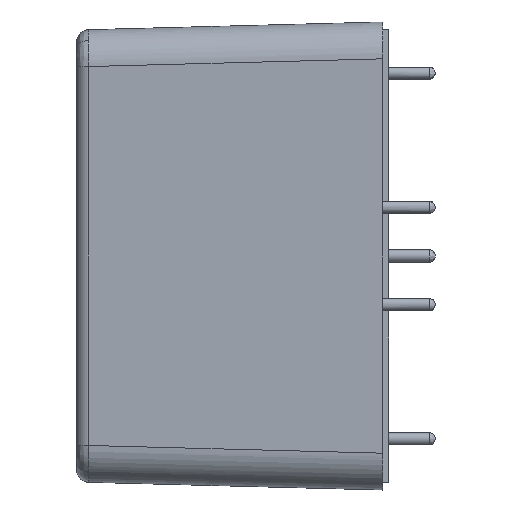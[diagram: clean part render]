
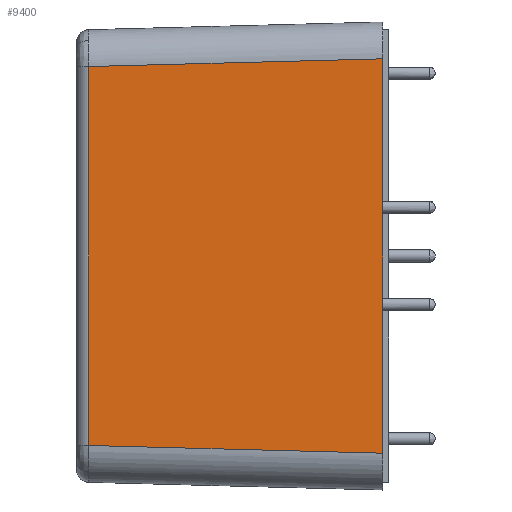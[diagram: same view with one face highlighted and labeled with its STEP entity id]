
A CAD part, left-side view. The second image highlights one B-rep face of the part: STEP entity #9400.
In plain terms, the highlighted planar face has unit normal (1, -0.026, 0).
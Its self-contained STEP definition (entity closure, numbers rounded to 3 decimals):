
#268 = VERTEX_POINT ( 'NONE', #3963 ) ;
#312 = EDGE_CURVE ( 'NONE', #268, #9253, #5178, .T. ) ;
#655 = VECTOR ( 'NONE', #3519, 1000. ) ;
#835 = FACE_OUTER_BOUND ( 'NONE', #861, .T. ) ;
#861 = EDGE_LOOP ( 'NONE', ( #7226, #1233, #10132, #7148 ) ) ;
#1122 = VECTOR ( 'NONE', #6343, 1000. ) ;
#1161 = CARTESIAN_POINT ( 'NONE',  ( -36.023, 20.426, 0. ) ) ;
#1233 = ORIENTED_EDGE ( 'NONE', *, *, #8664, .F. ) ;
#1325 = DIRECTION ( 'NONE',  ( -1., 0.026, 0. ) ) ;
#2739 = VERTEX_POINT ( 'NONE', #7555 ) ;
#3519 = DIRECTION ( 'NONE',  ( 0., 0., 1. ) ) ;
#3560 = VERTEX_POINT ( 'NONE', #4260 ) ;
#3740 = LINE ( 'NONE', #10626, #7990 ) ;
#3899 = CARTESIAN_POINT ( 'NONE',  ( -36.65, -3.5, -18.05 ) ) ;
#3963 = CARTESIAN_POINT ( 'NONE',  ( -36.65, -3.5, -16.052 ) ) ;
#4105 = EDGE_CURVE ( 'NONE', #2739, #3560, #7922, .T. ) ;
#4260 = CARTESIAN_POINT ( 'NONE',  ( -36.023, 20.426, 15.424 ) ) ;
#4322 = CARTESIAN_POINT ( 'NONE',  ( -36.65, -3.5, 16.051 ) ) ;
#5178 = LINE ( 'NONE', #3899, #655 ) ;
#5227 = EDGE_CURVE ( 'NONE', #2739, #268, #3740, .T. ) ;
#5510 = CARTESIAN_POINT ( 'NONE',  ( -36.65, -3.5, 16.051 ) ) ;
#6080 = LINE ( 'NONE', #5510, #8059 ) ;
#6343 = DIRECTION ( 'NONE',  ( 0., 0., 1. ) ) ;
#6420 = CARTESIAN_POINT ( 'NONE',  ( -36.649, -3.474, -18.05 ) ) ;
#6557 = DIRECTION ( 'NONE',  ( -0.026, -0.999, -0.026 ) ) ;
#7093 = AXIS2_PLACEMENT_3D ( 'NONE', #6420, #1325, #7286 ) ;
#7148 = ORIENTED_EDGE ( 'NONE', *, *, #5227, .F. ) ;
#7226 = ORIENTED_EDGE ( 'NONE', *, *, #4105, .T. ) ;
#7243 = PLANE ( 'NONE',  #7093 ) ;
#7286 = DIRECTION ( 'NONE',  ( -0.026, -1., 0. ) ) ;
#7555 = CARTESIAN_POINT ( 'NONE',  ( -36.023, 20.426, -15.425 ) ) ;
#7922 = LINE ( 'NONE', #1161, #1122 ) ;
#7990 = VECTOR ( 'NONE', #6557, 1000. ) ;
#8059 = VECTOR ( 'NONE', #10575, 1000. ) ;
#8664 = EDGE_CURVE ( 'NONE', #9253, #3560, #6080, .T. ) ;
#9253 = VERTEX_POINT ( 'NONE', #4322 ) ;
#9400 = ADVANCED_FACE ( 'NONE', ( #835 ), #7243, .F. ) ;
#10132 = ORIENTED_EDGE ( 'NONE', *, *, #312, .F. ) ;
#10575 = DIRECTION ( 'NONE',  ( 0.026, 0.999, -0.026 ) ) ;
#10626 = CARTESIAN_POINT ( 'NONE',  ( -36.023, 20.426, -15.425 ) ) ;
